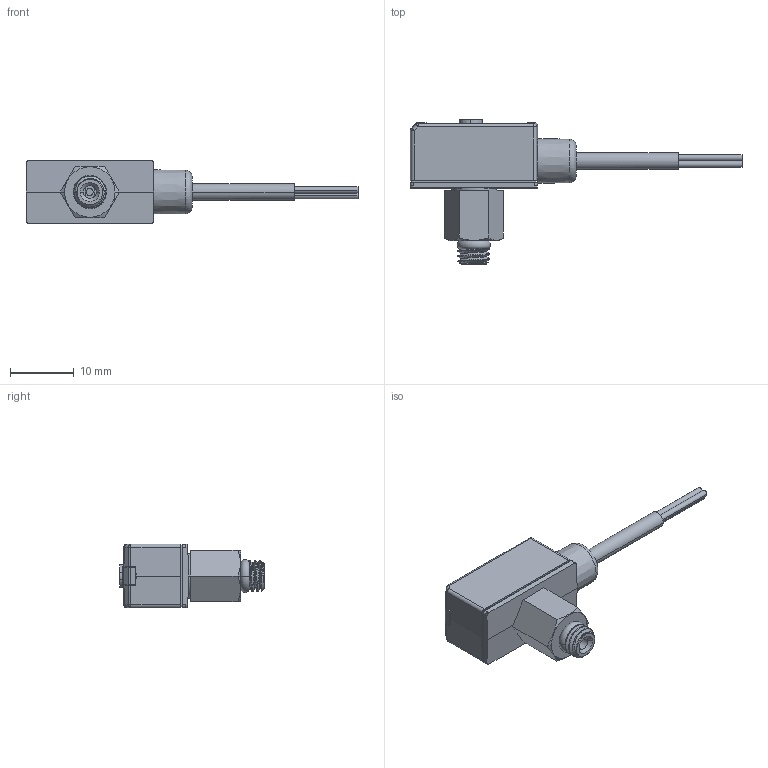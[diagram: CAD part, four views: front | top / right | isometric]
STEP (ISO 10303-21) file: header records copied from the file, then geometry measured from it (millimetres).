
FILE_DESCRIPTION(('STEP AP214'),'1');
FILE_NAME('82M5-N(P)G.stp','2026-04-16T04:52:40',(' '),(' '),'Spatial InterOp 3D',' ',' ');
FILE_SCHEMA(('AUTOMOTIVE_DESIGN { 1 0 10303 214 1 1 1 1 }'));
Length unit declared in the file: millimetre
Products named in the file (3): MPS-※82M5-N(P)G
Assembly tree (2 placements, depth 2):
  MPS-※82M5-N(P)G
    MPS-※82M5-N(P)G
    MPS-※82M5-N(P)G
Bounding box: 52 x 22.62 x 10 mm (x, y, z)
Volume: 127.1 mm3; surface area: 4024.4 mm2
Topology: 1 solids, 619 shells, 626 faces, 3254 edges, 3248 vertices
Faces by surface type: plane 420, cylinder 135, cone 32, bspline 17, torus 11, sphere 7, extrusion 4
Full cylindrical faces by diameter (mm): 2.7 x1, 4.7 x1
Entity records: 41552 total; most frequent: CARTESIAN_POINT 13063, DIRECTION 4411, ORIENTED_EDGE 3255, EDGE_CURVE 3247, VERTEX_POINT 3246, VECTOR 2395, LINE 2391, AXIS2_PLACEMENT_3D 1008
